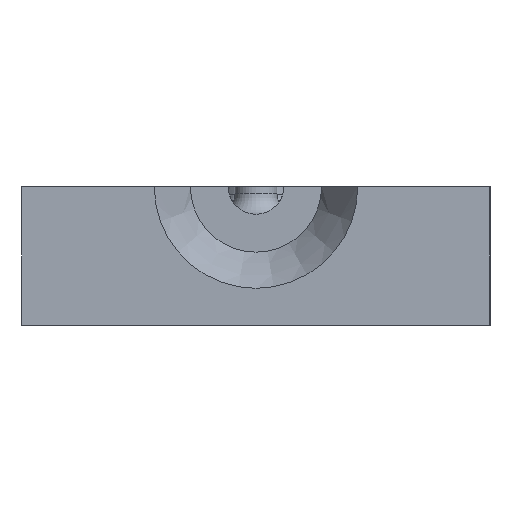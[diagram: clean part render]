
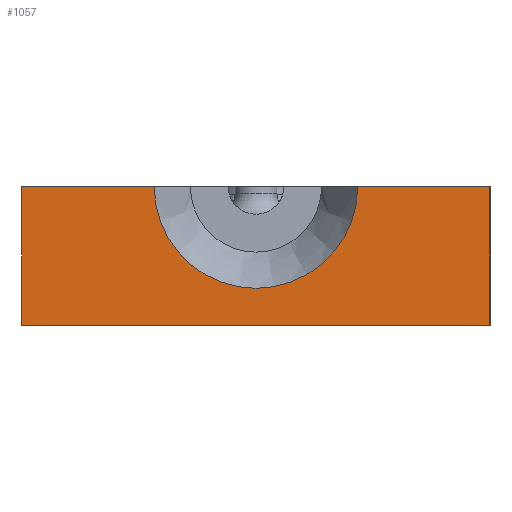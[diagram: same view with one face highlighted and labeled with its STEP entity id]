
A CAD part, left-side view. The second image highlights one B-rep face of the part: STEP entity #1057.
In plain terms, the highlighted planar face has unit normal (-1, 0, 0).
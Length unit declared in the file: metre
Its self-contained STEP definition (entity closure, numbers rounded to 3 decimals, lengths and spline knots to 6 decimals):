
#74=LINE('',#1580,#128);
#96=LINE('',#1808,#150);
#100=LINE('',#1828,#154);
#117=LINE('',#1887,#171);
#125=LINE('',#1929,#179);
#128=VECTOR('',#1235,1.);
#150=VECTOR('',#1455,1.);
#154=VECTOR('',#1463,1.);
#171=VECTOR('',#1516,1.);
#179=VECTOR('',#1550,1.);
#462=ORIENTED_EDGE('',*,*,#622,.T.);
#463=ORIENTED_EDGE('',*,*,#621,.F.);
#464=ORIENTED_EDGE('',*,*,#576,.T.);
#465=ORIENTED_EDGE('',*,*,#484,.F.);
#466=ORIENTED_EDGE('',*,*,#581,.F.);
#467=ORIENTED_EDGE('',*,*,#605,.F.);
#484=EDGE_CURVE('',#632,#633,#74,.T.);
#576=EDGE_CURVE('',#698,#633,#96,.T.);
#581=EDGE_CURVE('',#701,#632,#100,.T.);
#605=EDGE_CURVE('',#715,#701,#117,.T.);
#621=EDGE_CURVE('',#698,#722,#125,.T.);
#622=EDGE_CURVE('',#715,#722,#799,.T.);
#632=VERTEX_POINT('',#1579);
#633=VERTEX_POINT('',#1581);
#698=VERTEX_POINT('',#1809);
#701=VERTEX_POINT('',#1827);
#715=VERTEX_POINT('',#1886);
#722=VERTEX_POINT('',#1926);
#799=CIRCLE('',#1213,0.014646);
#886=EDGE_LOOP('',(#462,#463,#464,#465,#466,#467));
#974=FACE_BOUND('',#886,.T.);
#995=PLANE('',#1212);
#1057=ADVANCED_FACE('',(#974),#995,.T.);
#1212=AXIS2_PLACEMENT_3D('',#1930,#1551,#1552);
#1213=AXIS2_PLACEMENT_3D('',#1931,#1553,#1554);
#1235=DIRECTION('',(0.,1.,0.));
#1455=DIRECTION('',(0.,0.,-1.));
#1463=DIRECTION('',(0.,0.,-1.));
#1516=DIRECTION('',(0.,-1.,0.));
#1550=DIRECTION('',(0.,-1.,0.));
#1551=DIRECTION('',(-1.,0.,0.));
#1552=DIRECTION('',(0.,1.,0.));
#1553=DIRECTION('',(1.,0.,0.));
#1554=DIRECTION('',(0.,1.,0.));
#1579=CARTESIAN_POINT('',(-0.073433,-0.033676,-0.02));
#1580=CARTESIAN_POINT('',(-0.073433,0.033676,-0.02));
#1581=CARTESIAN_POINT('',(-0.073433,0.033676,-0.02));
#1808=CARTESIAN_POINT('',(-0.073433,0.033676,0.));
#1809=CARTESIAN_POINT('',(-0.073433,0.033676,0.));
#1827=CARTESIAN_POINT('',(-0.073433,-0.033676,0.));
#1828=CARTESIAN_POINT('',(-0.073433,-0.033676,0.));
#1886=CARTESIAN_POINT('',(-0.073433,-0.014646,0.));
#1887=CARTESIAN_POINT('',(-0.073433,0.,0.));
#1926=CARTESIAN_POINT('',(-0.073433,0.014646,0.));
#1929=CARTESIAN_POINT('',(-0.073433,0.,0.));
#1930=CARTESIAN_POINT('',(-0.073433,-0.033676,0.));
#1931=CARTESIAN_POINT('',(-0.073433,0.,0.));
